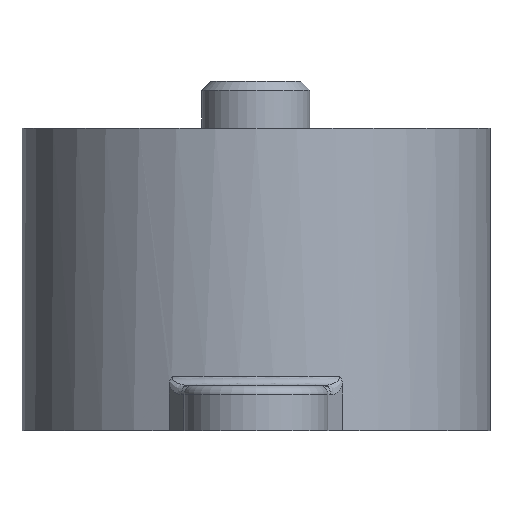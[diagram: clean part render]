
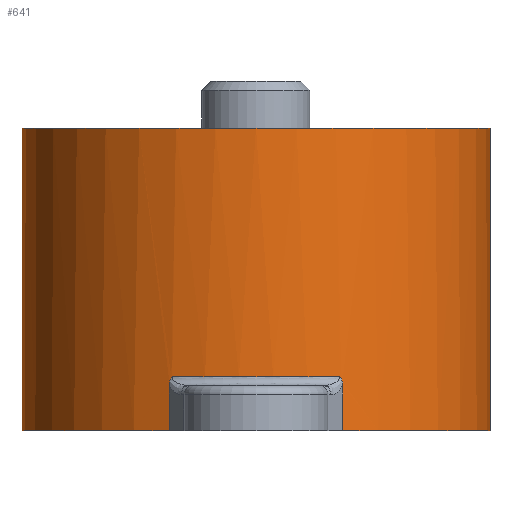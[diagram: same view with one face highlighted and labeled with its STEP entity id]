
A CAD part, front view. The second image highlights one B-rep face of the part: STEP entity #641.
In plain terms, the highlighted cylindrical face has radius 13 mm (diameter 26 mm), a full revolution.
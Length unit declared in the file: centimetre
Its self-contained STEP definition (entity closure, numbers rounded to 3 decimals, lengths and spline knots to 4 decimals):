
#196=B_SPLINE_CURVE_WITH_KNOTS('',3,(#2012,#2013,#2014,#2015,#2016,#2017,
#2018,#2019,#2020,#2021,#2022,#2023),.UNSPECIFIED.,.F.,.U.,(4,2,2,2,2,4),
(-0.0002,0.,0.008,0.0145,0.0217,
0.0301),.UNSPECIFIED.);
#199=B_SPLINE_CURVE_WITH_KNOTS('',3,(#2213,#2214,#2215,#2216,#2217,#2218,
#2219,#2220,#2221,#2222,#2223,#2224),.UNSPECIFIED.,.F.,.U.,(4,2,2,2,2,4),
(0.,0.0081,0.0218,0.0338,0.0554,
0.0559),.UNSPECIFIED.);
#201=B_SPLINE_CURVE_WITH_KNOTS('',3,(#2265,#2266,#2267,#2268,#2269,#2270,
#2271,#2272,#2273,#2274,#2275,#2276),.UNSPECIFIED.,.F.,.U.,(4,2,2,2,2,4),
(0.,0.0081,0.0218,0.0338,0.0554,
0.0559),.UNSPECIFIED.);
#202=B_SPLINE_CURVE_WITH_KNOTS('',3,(#2280,#2281,#2282,#2283,#2284,#2285,
#2286,#2287,#2288,#2289,#2290,#2291),.UNSPECIFIED.,.F.,.U.,(4,2,2,2,2,4),
(-0.0002,0.,0.008,0.0145,0.0217,
0.0301),.UNSPECIFIED.);
#217=CYLINDRICAL_SURFACE('',#1309,1.3);
#235=VERTEX_POINT('',#2011);
#236=VERTEX_POINT('',#2024);
#242=VERTEX_POINT('',#2212);
#243=VERTEX_POINT('',#2225);
#245=VERTEX_POINT('',#2238);
#249=VERTEX_POINT('',#2254);
#250=VERTEX_POINT('',#2260);
#251=VERTEX_POINT('',#2262);
#252=VERTEX_POINT('',#2264);
#253=VERTEX_POINT('',#2277);
#254=VERTEX_POINT('',#2279);
#255=VERTEX_POINT('',#2292);
#256=VERTEX_POINT('',#2294);
#290=EDGE_CURVE('',#235,#236,#196,.F.);
#302=EDGE_CURVE('',#242,#243,#199,.F.);
#307=EDGE_CURVE('',#245,#235,#752,.T.);
#314=EDGE_CURVE('',#249,#243,#758,.T.);
#316=EDGE_CURVE('',#236,#242,#830,.T.);
#317=EDGE_CURVE('',#250,#250,#831,.T.);
#318=EDGE_CURVE('',#245,#251,#832,.T.);
#319=EDGE_CURVE('',#251,#252,#760,.T.);
#320=EDGE_CURVE('',#253,#252,#201,.F.);
#321=EDGE_CURVE('',#254,#253,#833,.T.);
#322=EDGE_CURVE('',#255,#254,#202,.F.);
#323=EDGE_CURVE('',#256,#255,#761,.T.);
#324=EDGE_CURVE('',#256,#249,#834,.T.);
#426=ORIENTED_EDGE('',*,*,#317,.T.);
#427=ORIENTED_EDGE('',*,*,#314,.T.);
#428=ORIENTED_EDGE('',*,*,#302,.F.);
#429=ORIENTED_EDGE('',*,*,#316,.F.);
#430=ORIENTED_EDGE('',*,*,#290,.F.);
#431=ORIENTED_EDGE('',*,*,#307,.F.);
#432=ORIENTED_EDGE('',*,*,#318,.T.);
#433=ORIENTED_EDGE('',*,*,#319,.T.);
#434=ORIENTED_EDGE('',*,*,#320,.F.);
#435=ORIENTED_EDGE('',*,*,#321,.F.);
#436=ORIENTED_EDGE('',*,*,#322,.F.);
#437=ORIENTED_EDGE('',*,*,#323,.F.);
#438=ORIENTED_EDGE('',*,*,#324,.T.);
#544=EDGE_LOOP('',(#426));
#545=EDGE_LOOP('',(#427,#428,#429,#430,#431,#432,#433,#434,#435,#436,#437,
#438));
#594=FACE_BOUND('',#544,.T.);
#595=FACE_BOUND('',#545,.T.);
#641=ADVANCED_FACE('',(#594,#595),#217,.T.);
#752=LINE('',#2239,#1385);
#758=LINE('',#2253,#1391);
#760=LINE('',#2263,#1393);
#761=LINE('',#2293,#1394);
#830=CIRCLE('',#1308,1.3);
#831=CIRCLE('',#1310,1.3);
#832=CIRCLE('',#1311,1.3);
#833=CIRCLE('',#1312,1.3);
#834=CIRCLE('',#1313,1.3);
#1308=AXIS2_PLACEMENT_3D('',#2257,#1599,#1600);
#1309=AXIS2_PLACEMENT_3D('',#2258,#1601,#1602);
#1310=AXIS2_PLACEMENT_3D('',#2259,#1603,#1604);
#1311=AXIS2_PLACEMENT_3D('',#2261,#1605,#1606);
#1312=AXIS2_PLACEMENT_3D('',#2278,#1608,#1609);
#1313=AXIS2_PLACEMENT_3D('',#2295,#1611,#1612);
#1385=VECTOR('',#1583,1.);
#1391=VECTOR('',#1596,1.);
#1393=VECTOR('',#1607,1.);
#1394=VECTOR('',#1610,1.);
#1583=DIRECTION('',(0.,0.,1.));
#1596=DIRECTION('',(0.,0.,1.));
#1599=DIRECTION('',(0.,0.,-1.));
#1600=DIRECTION('',(0.,1.3,0.));
#1601=DIRECTION('',(0.,0.,1.));
#1602=DIRECTION('',(1.3,0.,0.));
#1603=DIRECTION('',(0.,0.,-1.));
#1604=DIRECTION('',(1.3,0.,0.));
#1605=DIRECTION('',(0.,0.,1.));
#1606=DIRECTION('',(1.3,0.,0.));
#1607=DIRECTION('',(0.,0.,1.));
#1608=DIRECTION('',(0.,0.,-1.));
#1609=DIRECTION('',(0.,-1.3,0.));
#1610=DIRECTION('',(0.,0.,1.));
#1611=DIRECTION('',(0.,0.,1.));
#1612=DIRECTION('',(1.3,0.,0.));
#2011=CARTESIAN_POINT('',(-0.4819,1.2074,0.2541));
#2012=CARTESIAN_POINT('',(-0.4652,1.2139,0.3));
#2013=CARTESIAN_POINT('',(-0.4653,1.2139,0.2999));
#2014=CARTESIAN_POINT('',(-0.4653,1.2139,0.2999));
#2015=CARTESIAN_POINT('',(-0.4671,1.2132,0.298));
#2016=CARTESIAN_POINT('',(-0.4696,1.2122,0.2951));
#2017=CARTESIAN_POINT('',(-0.474,1.2105,0.288));
#2018=CARTESIAN_POINT('',(-0.4757,1.2098,0.2846));
#2019=CARTESIAN_POINT('',(-0.4786,1.2087,0.2772));
#2020=CARTESIAN_POINT('',(-0.4798,1.2082,0.2731));
#2021=CARTESIAN_POINT('',(-0.4815,1.2075,0.264));
#2022=CARTESIAN_POINT('',(-0.4819,1.2074,0.259));
#2023=CARTESIAN_POINT('',(-0.4819,1.2074,0.2541));
#2024=CARTESIAN_POINT('',(-0.4652,1.2139,0.3));
#2212=CARTESIAN_POINT('',(0.4652,1.2139,0.3));
#2213=CARTESIAN_POINT('',(0.4819,1.2074,0.2541));
#2214=CARTESIAN_POINT('',(0.4819,1.2074,0.2567));
#2215=CARTESIAN_POINT('',(0.4818,1.2074,0.2594));
#2216=CARTESIAN_POINT('',(0.4811,1.2077,0.2667));
#2217=CARTESIAN_POINT('',(0.4802,1.208,0.2712));
#2218=CARTESIAN_POINT('',(0.4779,1.209,0.2793));
#2219=CARTESIAN_POINT('',(0.4764,1.2096,0.2831));
#2220=CARTESIAN_POINT('',(0.4714,1.2115,0.2929));
#2221=CARTESIAN_POINT('',(0.4679,1.2129,0.2972));
#2222=CARTESIAN_POINT('',(0.4653,1.2139,0.2999));
#2223=CARTESIAN_POINT('',(0.4653,1.2139,0.2999));
#2224=CARTESIAN_POINT('',(0.4652,1.2139,0.3));
#2225=CARTESIAN_POINT('',(0.4819,1.2074,0.2541));
#2238=CARTESIAN_POINT('',(-0.4819,1.2074,0.));
#2239=CARTESIAN_POINT('',(-0.4819,1.2074,0.));
#2253=CARTESIAN_POINT('',(0.4819,1.2074,0.));
#2254=CARTESIAN_POINT('',(0.4819,1.2074,0.));
#2257=CARTESIAN_POINT('',(0.,0.,0.3));
#2258=CARTESIAN_POINT('',(0.,0.,0.));
#2259=CARTESIAN_POINT('',(0.,0.,1.68));
#2260=CARTESIAN_POINT('',(1.3,0.,1.68));
#2261=CARTESIAN_POINT('',(0.,0.,0.));
#2262=CARTESIAN_POINT('',(-0.4819,-1.2074,0.));
#2263=CARTESIAN_POINT('',(-0.4819,-1.2074,0.));
#2264=CARTESIAN_POINT('',(-0.4819,-1.2074,0.2541));
#2265=CARTESIAN_POINT('',(-0.4819,-1.2074,0.2541));
#2266=CARTESIAN_POINT('',(-0.4819,-1.2074,0.2567));
#2267=CARTESIAN_POINT('',(-0.4818,-1.2074,0.2594));
#2268=CARTESIAN_POINT('',(-0.4811,-1.2077,0.2667));
#2269=CARTESIAN_POINT('',(-0.4802,-1.208,0.2712));
#2270=CARTESIAN_POINT('',(-0.4779,-1.209,0.2793));
#2271=CARTESIAN_POINT('',(-0.4764,-1.2096,0.2831));
#2272=CARTESIAN_POINT('',(-0.4714,-1.2115,0.2929));
#2273=CARTESIAN_POINT('',(-0.4679,-1.2129,0.2972));
#2274=CARTESIAN_POINT('',(-0.4653,-1.2139,0.2999));
#2275=CARTESIAN_POINT('',(-0.4653,-1.2139,0.2999));
#2276=CARTESIAN_POINT('',(-0.4652,-1.2139,0.3));
#2277=CARTESIAN_POINT('',(-0.4652,-1.2139,0.3));
#2278=CARTESIAN_POINT('',(0.,0.,0.3));
#2279=CARTESIAN_POINT('',(0.4652,-1.2139,0.3));
#2280=CARTESIAN_POINT('',(0.4652,-1.2139,0.3));
#2281=CARTESIAN_POINT('',(0.4653,-1.2139,0.2999));
#2282=CARTESIAN_POINT('',(0.4653,-1.2139,0.2999));
#2283=CARTESIAN_POINT('',(0.4671,-1.2132,0.298));
#2284=CARTESIAN_POINT('',(0.4696,-1.2122,0.2951));
#2285=CARTESIAN_POINT('',(0.474,-1.2105,0.288));
#2286=CARTESIAN_POINT('',(0.4757,-1.2098,0.2846));
#2287=CARTESIAN_POINT('',(0.4786,-1.2087,0.2772));
#2288=CARTESIAN_POINT('',(0.4798,-1.2082,0.2731));
#2289=CARTESIAN_POINT('',(0.4815,-1.2075,0.264));
#2290=CARTESIAN_POINT('',(0.4819,-1.2074,0.259));
#2291=CARTESIAN_POINT('',(0.4819,-1.2074,0.2541));
#2292=CARTESIAN_POINT('',(0.4819,-1.2074,0.2541));
#2293=CARTESIAN_POINT('',(0.4819,-1.2074,0.));
#2294=CARTESIAN_POINT('',(0.4819,-1.2074,0.));
#2295=CARTESIAN_POINT('',(0.,0.,0.));
